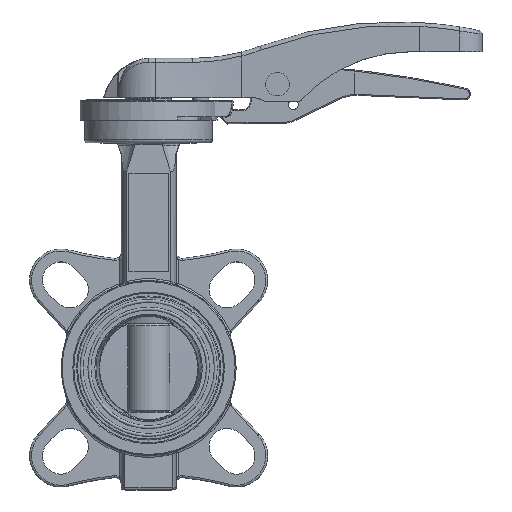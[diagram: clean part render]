
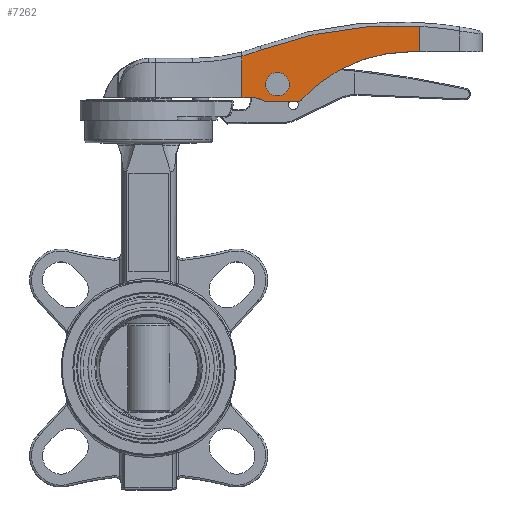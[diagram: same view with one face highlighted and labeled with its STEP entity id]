
A CAD part, top view. The second image highlights one B-rep face of the part: STEP entity #7262.
In plain terms, the highlighted planar face has unit normal (0, 0, 1).
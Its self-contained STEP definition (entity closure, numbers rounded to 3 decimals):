
#7228 = VERTEX_POINT ( 'NONE', #14214 ) ;
#7262 = ADVANCED_FACE ( 'NONE', ( #14326, #14273 ), #14288, .F. ) ;
#7268 = EDGE_LOOP ( 'NONE', ( #7302, #7282, #7300, #7342, #7360, #15322, #14024, #15433, #14272, #14197, #32418, #37589 ) ) ;
#7282 = ORIENTED_EDGE ( 'NONE', *, *, #7289, .T. ) ;
#7289 = EDGE_CURVE ( 'NONE', #7228, #25074, #14386, .T. ) ;
#7294 = EDGE_CURVE ( 'NONE', #7296, #25074, #14376, .T. ) ;
#7295 = VERTEX_POINT ( 'NONE', #14377 ) ;
#7296 = VERTEX_POINT ( 'NONE', #14388 ) ;
#7298 = VERTEX_POINT ( 'NONE', #14397 ) ;
#7300 = ORIENTED_EDGE ( 'NONE', *, *, #7294, .F. ) ;
#7302 = ORIENTED_EDGE ( 'NONE', *, *, #7332, .F. ) ;
#7332 = EDGE_CURVE ( 'NONE', #7228, #7298, #14265, .T. ) ;
#7342 = ORIENTED_EDGE ( 'NONE', *, *, #28054, .F. ) ;
#7354 = VERTEX_POINT ( 'NONE', #14516 ) ;
#7360 = ORIENTED_EDGE ( 'NONE', *, *, #7374, .F. ) ;
#7374 = EDGE_CURVE ( 'NONE', #7354, #7295, #14549, .T. ) ;
#13933 = VERTEX_POINT ( 'NONE', #23586 ) ;
#13978 = VERTEX_POINT ( 'NONE', #23687 ) ;
#14024 = ORIENTED_EDGE ( 'NONE', *, *, #15193, .T. ) ;
#14140 = EDGE_CURVE ( 'NONE', #7354, #15325, #23742, .T. ) ;
#14197 = ORIENTED_EDGE ( 'NONE', *, *, #14307, .F. ) ;
#14214 = CARTESIAN_POINT ( 'NONE',  ( 75.661, 135.5, 11.75 ) ) ;
#14222 = EDGE_CURVE ( 'NONE', #13978, #13933, #23714, .T. ) ;
#14264 = CARTESIAN_POINT ( 'NONE',  ( 47.444, 135.5, 11.75 ) ) ;
#14265 = LINE ( 'NONE', #14264, #14463 ) ;
#14272 = ORIENTED_EDGE ( 'NONE', *, *, #15338, .F. ) ;
#14273 = FACE_BOUND ( 'NONE', #36134, .T. ) ;
#14288 = PLANE ( 'NONE',  #14325 ) ;
#14307 = EDGE_CURVE ( 'NONE', #30599, #15183, #23802, .T. ) ;
#14322 = DIRECTION ( 'NONE',  ( -1., 0., 0. ) ) ;
#14323 = DIRECTION ( 'NONE',  ( 0., 0., -1. ) ) ;
#14324 = CARTESIAN_POINT ( 'NONE',  ( 47.444, 222.9, 11.75 ) ) ;
#14325 = AXIS2_PLACEMENT_3D ( 'NONE', #14324, #14323, #14322 ) ;
#14326 = FACE_OUTER_BOUND ( 'NONE', #7268, .T. ) ;
#14349 = AXIS2_PLACEMENT_3D ( 'NONE', #14369, #14380, #14379 ) ;
#14368 = AXIS2_PLACEMENT_3D ( 'NONE', #14400, #14399, #14398 ) ;
#14369 = CARTESIAN_POINT ( 'NONE',  ( 75.661, 138.5, 11.75 ) ) ;
#14376 = CIRCLE ( 'NONE', #14368, 75. ) ;
#14377 = CARTESIAN_POINT ( 'NONE',  ( 138., 160.9, 11.75 ) ) ;
#14379 = DIRECTION ( 'NONE',  ( -1., 0., 0. ) ) ;
#14380 = DIRECTION ( 'NONE',  ( 0., 0., 1. ) ) ;
#14386 = CIRCLE ( 'NONE', #14349, 3. ) ;
#14388 = CARTESIAN_POINT ( 'NONE',  ( 133.257, 160.9, 11.75 ) ) ;
#14397 = CARTESIAN_POINT ( 'NONE',  ( 59.804, 135.5, 11.75 ) ) ;
#14398 = DIRECTION ( 'NONE',  ( -1., 0., 0. ) ) ;
#14399 = DIRECTION ( 'NONE',  ( 0., 0., 1. ) ) ;
#14400 = CARTESIAN_POINT ( 'NONE',  ( 133.257, 85.9, 11.75 ) ) ;
#14417 = DIRECTION ( 'NONE',  ( -1., 0., 0. ) ) ;
#14463 = VECTOR ( 'NONE', #14417, 1000. ) ;
#14516 = CARTESIAN_POINT ( 'NONE',  ( 138., 173.74, 11.75 ) ) ;
#14546 = DIRECTION ( 'NONE',  ( 0., -1., 0. ) ) ;
#14547 = VECTOR ( 'NONE', #14546, 1000. ) ;
#14548 = CARTESIAN_POINT ( 'NONE',  ( 138., 222.9, 11.75 ) ) ;
#14549 = LINE ( 'NONE', #14548, #14547 ) ;
#15183 = VERTEX_POINT ( 'NONE', #23944 ) ;
#15193 = EDGE_CURVE ( 'NONE', #15325, #13978, #23522, .T. ) ;
#15322 = ORIENTED_EDGE ( 'NONE', *, *, #14140, .T. ) ;
#15325 = VERTEX_POINT ( 'NONE', #24089 ) ;
#15338 = EDGE_CURVE ( 'NONE', #15183, #13933, #24286, .T. ) ;
#15433 = ORIENTED_EDGE ( 'NONE', *, *, #14222, .T. ) ;
#23522 = CIRCLE ( 'NONE', #23536, 102. ) ;
#23526 = DIRECTION ( 'NONE',  ( 0., 0., -1. ) ) ;
#23527 = CARTESIAN_POINT ( 'NONE',  ( 22., 257.5, 11.75 ) ) ;
#23536 = AXIS2_PLACEMENT_3D ( 'NONE', #23527, #23526, #23937 ) ;
#23586 = CARTESIAN_POINT ( 'NONE',  ( 47.444, 137.5, 11.75 ) ) ;
#23669 = CARTESIAN_POINT ( 'NONE',  ( 126., -23.897, 11.75 ) ) ;
#23687 = CARTESIAN_POINT ( 'NONE',  ( 47.444, 158.724, 11.75 ) ) ;
#23712 = DIRECTION ( 'NONE',  ( 0., -1., 0. ) ) ;
#23713 = AXIS2_PLACEMENT_3D ( 'NONE', #23720, #23799, #23798 ) ;
#23714 = LINE ( 'NONE', #23754, #23719 ) ;
#23719 = VECTOR ( 'NONE', #23712, 1000. ) ;
#23720 = CARTESIAN_POINT ( 'NONE',  ( 52.856, 127.5, 11.75 ) ) ;
#23725 = DIRECTION ( 'NONE',  ( -1., 0., 0. ) ) ;
#23726 = DIRECTION ( 'NONE',  ( 0., 0., 1. ) ) ;
#23742 = CIRCLE ( 'NONE', #23746, 198. ) ;
#23746 = AXIS2_PLACEMENT_3D ( 'NONE', #23669, #23726, #23725 ) ;
#23754 = CARTESIAN_POINT ( 'NONE',  ( 47.444, 222.9, 11.75 ) ) ;
#23798 = DIRECTION ( 'NONE',  ( -1., 0., 0. ) ) ;
#23799 = DIRECTION ( 'NONE',  ( 0., 0., 1. ) ) ;
#23802 = CIRCLE ( 'NONE', #23713, 10. ) ;
#23937 = DIRECTION ( 'NONE',  ( -1., 0., 0. ) ) ;
#23944 = CARTESIAN_POINT ( 'NONE',  ( 52.856, 137.5, 11.75 ) ) ;
#24089 = CARTESIAN_POINT ( 'NONE',  ( 57.36, 161.825, 11.75 ) ) ;
#24283 = DIRECTION ( 'NONE',  ( -1., 0., 0. ) ) ;
#24284 = VECTOR ( 'NONE', #24283, 1000. ) ;
#24285 = CARTESIAN_POINT ( 'NONE',  ( 47.444, 137.5, 11.75 ) ) ;
#24286 = LINE ( 'NONE', #24285, #24284 ) ;
#25074 = VERTEX_POINT ( 'NONE', #25584 ) ;
#25584 = CARTESIAN_POINT ( 'NONE',  ( 77.877, 136.477, 11.75 ) ) ;
#26305 = DIRECTION ( 'NONE',  ( -1., 0., 0. ) ) ;
#26306 = VECTOR ( 'NONE', #26305, 1000. ) ;
#26307 = CARTESIAN_POINT ( 'NONE',  ( 47.444, 160.9, 11.75 ) ) ;
#26308 = LINE ( 'NONE', #26307, #26306 ) ;
#28054 = EDGE_CURVE ( 'NONE', #7295, #7296, #26308, .T. ) ;
#30599 = VERTEX_POINT ( 'NONE', #32670 ) ;
#32407 = EDGE_CURVE ( 'NONE', #42081, #42081, #33701, .T. ) ;
#32418 = ORIENTED_EDGE ( 'NONE', *, *, #32808, .F. ) ;
#32670 = CARTESIAN_POINT ( 'NONE',  ( 57.856, 136.16, 11.75 ) ) ;
#32808 = EDGE_CURVE ( 'NONE', #37546, #30599, #33752, .T. ) ;
#33687 = AXIS2_PLACEMENT_3D ( 'NONE', #33699, #33698, #33697 ) ;
#33697 = DIRECTION ( 'NONE',  ( -1., 0., 0. ) ) ;
#33698 = DIRECTION ( 'NONE',  ( 0., 0., -1. ) ) ;
#33699 = CARTESIAN_POINT ( 'NONE',  ( 65.5, 144.4, 11.75 ) ) ;
#33701 = CIRCLE ( 'NONE', #33687, 6. ) ;
#33727 = DIRECTION ( 'NONE',  ( -0.866, 0.5, 0. ) ) ;
#33728 = VECTOR ( 'NONE', #33727, 1000. ) ;
#33729 = CARTESIAN_POINT ( 'NONE',  ( 12.488, 162.354, 11.75 ) ) ;
#33752 = LINE ( 'NONE', #33729, #33728 ) ;
#33786 = DIRECTION ( 'NONE',  ( -1., 0., 0. ) ) ;
#33787 = DIRECTION ( 'NONE',  ( 0., 0., 1. ) ) ;
#33788 = CARTESIAN_POINT ( 'NONE',  ( 59.804, 138.5, 11.75 ) ) ;
#33789 = AXIS2_PLACEMENT_3D ( 'NONE', #33788, #33787, #33786 ) ;
#33794 = CIRCLE ( 'NONE', #33789, 3. ) ;
#33985 = EDGE_CURVE ( 'NONE', #37546, #7298, #33794, .T. ) ;
#34771 = CARTESIAN_POINT ( 'NONE',  ( 58.304, 135.902, 11.75 ) ) ;
#36134 = EDGE_LOOP ( 'NONE', ( #37507 ) ) ;
#37507 = ORIENTED_EDGE ( 'NONE', *, *, #32407, .T. ) ;
#37546 = VERTEX_POINT ( 'NONE', #34771 ) ;
#37589 = ORIENTED_EDGE ( 'NONE', *, *, #33985, .T. ) ;
#42078 = CARTESIAN_POINT ( 'NONE',  ( 59.5, 144.4, 11.75 ) ) ;
#42081 = VERTEX_POINT ( 'NONE', #42078 ) ;
